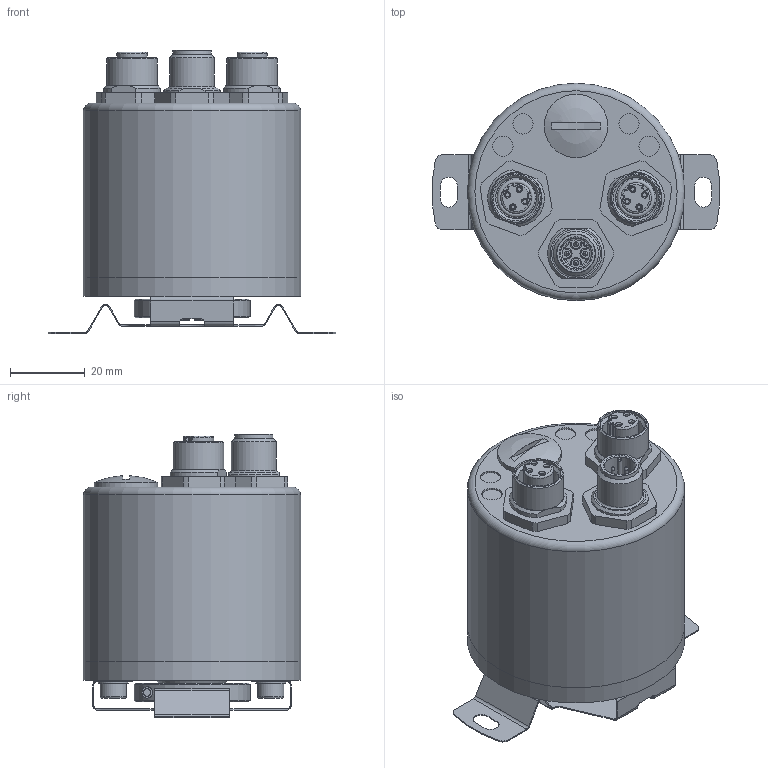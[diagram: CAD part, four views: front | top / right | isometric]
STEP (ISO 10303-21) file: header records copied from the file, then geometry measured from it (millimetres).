
FILE_DESCRIPTION( ( 'Unknown' ), '1' );
FILE_NAME( 'Z:/PJ-RD-MC/10601626_MAGRES_4/20__Produktmanagement/Datenblatt/Vereinfachte Modelle und DAB-Zeichnungen/November 2016/58/Hohlwelle/ø12/EAM580-BAC.xYxx.xxxxx.A.stp', 'Unknown', ( 'Unknown' ), ( 'Unknown' ), 'PSStep 15.0.49', 'Unknown', ' ' );
FILE_SCHEMA( ( 'AUTOMOTIVE_DESIGN { 1 0 10303 214 1 1 1 1 }' ) );
Length unit declared in the file: millimetre
Products named in the file (16): 58 H BoMo 12 vereinfacht; 11158182_vereinfacht; 11158189 vereinfacht; 11116324; 126053; 58 Haube Ethernet axial vereinfacht; 11164481 vereinfacht; 10124678; RSH4-012P4_8067A29 vereinfacht; RKH 4D_0_1 vereinfacht; EAM580-BNC.xYxx.xxxxx.A; 58 Federplatte mit Schrauben; 11115506; 110695; 116875; Assem1
Assembly tree (18 placements, depth 4):
  Assem1
    58 Federplatte mit Schrauben
      11115506
      110695  x2
      116875  x2
    EAM580-BNC.xYxx.xxxxx.A
      58 H BoMo 12 vereinfacht
        11158182_vereinfacht
        11158189 vereinfacht
        11116324
        126053
      58 Haube Ethernet axial vereinfacht
        11164481 vereinfacht
        10124678
        RSH4-012P4_8067A29 vereinfacht
        RKH 4D_0_1 vereinfacht  x2
Bounding box: 76.79 x 58 x 75.6 mm (x, y, z)
Surface area: 46063.3 mm2 (no closed solid volume)
Topology: 0 solids, 597 shells, 597 faces, 2750 edges, 2640 vertices
Faces by surface type: cylinder 247, plane 246, torus 41, cone 38, bspline 24, sphere 1
Full cylindrical faces by diameter (mm): 1 x4, 1.1 x8, 1.3 x4, 1.9 x2, 2.013 x1, 2.5 x1, 2.6 x1, 3.242 x8, 4 x2, 4.3 x4, 4.5 x1, 5.4 x4, 7 x2, 8 x2, 8.3 x1, 8.6 x2, 9.338 x2, 10.9 x1, 10.92 x2, 12 x2, 12.2 x2, 12.5 x2, 12.522 x1, 13.5 x3, 15.2 x2, 15.8 x1, 17 x1, 19 x2, 20 x1, 56 x2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
Entity records: 29080 total; most frequent: CARTESIAN_POINT 8038, DIRECTION 3938, VERTEX_POINT 2132, ORIENTED_EDGE 2130, EDGE_CURVE 2130, AXIS2_PLACEMENT_3D 1490, CIRCLE 1004, LINE 958
